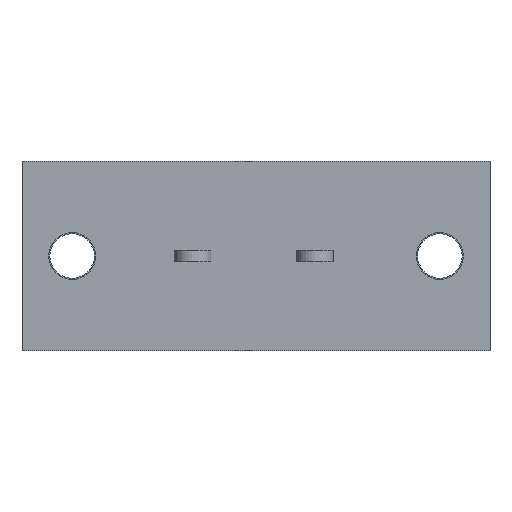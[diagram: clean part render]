
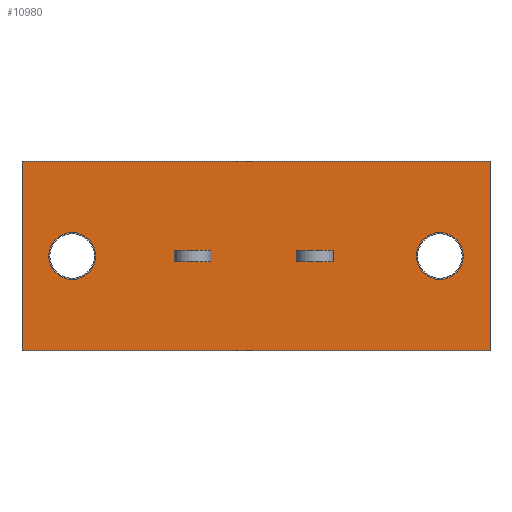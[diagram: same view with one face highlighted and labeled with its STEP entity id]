
A CAD part, front view. The second image highlights one B-rep face of the part: STEP entity #10980.
In plain terms, the highlighted planar face has unit normal (0, -1, 0).
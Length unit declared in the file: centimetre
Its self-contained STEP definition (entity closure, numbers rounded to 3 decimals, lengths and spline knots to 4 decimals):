
#559=CIRCLE('',#18077,0.21);
#595=CIRCLE('',#18293,0.21);
#663=VERTEX_POINT('',#13553);
#664=VERTEX_POINT('',#13554);
#667=VERTEX_POINT('',#13562);
#700=VERTEX_POINT('',#13642);
#1129=VERTEX_POINT('',#15403);
#1130=VERTEX_POINT('',#15404);
#1141=VERTEX_POINT('',#15428);
#1565=VERTEX_POINT('',#17185);
#1566=VERTEX_POINT('',#17186);
#1577=VERTEX_POINT('',#17210);
#1645=VERTEX_POINT('',#17452);
#1646=VERTEX_POINT('',#17453);
#1649=VERTEX_POINT('',#17461);
#1665=VERTEX_POINT('',#17505);
#1751=VECTOR('',#11440,1.);
#1755=VECTOR('',#11445,1.);
#1784=VECTOR('',#11505,1.);
#1792=VECTOR('',#11517,1.);
#2284=VECTOR('',#12254,1.);
#2790=VECTOR('',#13030,1.);
#2854=VECTOR('',#13234,1.);
#2858=VECTOR('',#13239,1.);
#2873=VECTOR('',#13276,1.);
#2881=VECTOR('',#13288,1.);
#2936=VECTOR('',#13401,1.);
#2937=VECTOR('',#13402,1.);
#2974=LINE('',#13552,#1751);
#2978=LINE('',#13561,#1755);
#3007=LINE('',#13641,#1784);
#3015=LINE('',#13657,#1792);
#3507=LINE('',#15402,#2284);
#4013=LINE('',#17184,#2790);
#4077=LINE('',#17451,#2854);
#4081=LINE('',#17460,#2858);
#4096=LINE('',#17504,#2873);
#4104=LINE('',#17520,#2881);
#4159=LINE('',#17658,#2936);
#4160=LINE('',#17659,#2937);
#4197=EDGE_CURVE('',#663,#664,#2974,.T.);
#4201=EDGE_CURVE('',#667,#663,#2978,.T.);
#4241=EDGE_CURVE('',#700,#667,#3007,.T.);
#4250=EDGE_CURVE('',#664,#700,#3015,.T.);
#4881=EDGE_CURVE('',#1129,#1130,#3507,.T.);
#4893=EDGE_CURVE('',#1141,#1141,#559,.T.);
#5530=EDGE_CURVE('',#1565,#1566,#4013,.T.);
#5542=EDGE_CURVE('',#1577,#1577,#595,.T.);
#5643=EDGE_CURVE('',#1645,#1646,#4077,.T.);
#5647=EDGE_CURVE('',#1649,#1645,#4081,.T.);
#5669=EDGE_CURVE('',#1665,#1649,#4096,.T.);
#5678=EDGE_CURVE('',#1646,#1665,#4104,.T.);
#5749=EDGE_CURVE('',#1566,#1129,#4159,.T.);
#5750=EDGE_CURVE('',#1130,#1565,#4160,.T.);
#8849=ORIENTED_EDGE('',*,*,#4201,.T.);
#8850=ORIENTED_EDGE('',*,*,#4197,.T.);
#8851=ORIENTED_EDGE('',*,*,#4250,.T.);
#8852=ORIENTED_EDGE('',*,*,#4241,.T.);
#8853=ORIENTED_EDGE('',*,*,#4893,.T.);
#8854=ORIENTED_EDGE('',*,*,#5542,.T.);
#8855=ORIENTED_EDGE('',*,*,#5647,.T.);
#8856=ORIENTED_EDGE('',*,*,#5643,.T.);
#8857=ORIENTED_EDGE('',*,*,#5678,.T.);
#8858=ORIENTED_EDGE('',*,*,#5669,.T.);
#8859=ORIENTED_EDGE('',*,*,#5749,.T.);
#8860=ORIENTED_EDGE('',*,*,#4881,.T.);
#8861=ORIENTED_EDGE('',*,*,#5750,.T.);
#8862=ORIENTED_EDGE('',*,*,#5530,.T.);
#9698=EDGE_LOOP('',(#8849,#8850,#8851,#8852));
#9699=EDGE_LOOP('',(#8853));
#9700=EDGE_LOOP('',(#8854));
#9701=EDGE_LOOP('',(#8855,#8856,#8857,#8858));
#9702=EDGE_LOOP('',(#8859,#8860,#8861,#8862));
#10370=FACE_BOUND('',#9698,.T.);
#10371=FACE_BOUND('',#9699,.T.);
#10372=FACE_BOUND('',#9700,.T.);
#10373=FACE_BOUND('',#9701,.T.);
#10374=FACE_BOUND('',#9702,.T.);
#10980=ADVANCED_FACE('',(#10370,#10371,#10372,#10373,#10374),#11406,.T.);
#11406=PLANE('',#18426);
#11440=DIRECTION('',(0.,0.,1.));
#11445=DIRECTION('',(-1.,0.,0.));
#11505=DIRECTION('',(0.,0.,-1.));
#11517=DIRECTION('',(1.,0.,0.));
#12254=DIRECTION('',(0.,0.,1.));
#12272=DIRECTION('',(0.,1.,0.));
#12273=DIRECTION('',(0.21,0.,0.));
#13030=DIRECTION('',(0.,0.,-1.));
#13048=DIRECTION('',(0.,1.,0.));
#13049=DIRECTION('',(-0.21,0.,0.));
#13234=DIRECTION('',(0.,0.,1.));
#13239=DIRECTION('',(-1.,0.,0.));
#13276=DIRECTION('',(0.,0.,-1.));
#13288=DIRECTION('',(1.,0.,0.));
#13400=DIRECTION('',(0.,-1.,0.));
#13401=DIRECTION('',(1.,0.,0.));
#13402=DIRECTION('',(-1.,0.,0.));
#13552=CARTESIAN_POINT('',(-0.635,0.,0.));
#13553=CARTESIAN_POINT('',(-0.635,0.,-0.05));
#13554=CARTESIAN_POINT('',(-0.635,0.,0.05));
#13561=CARTESIAN_POINT('',(-0.235,0.,-0.05));
#13562=CARTESIAN_POINT('',(-0.305,0.,-0.05));
#13641=CARTESIAN_POINT('',(-0.305,0.,0.));
#13642=CARTESIAN_POINT('',(-0.305,0.,0.05));
#13657=CARTESIAN_POINT('',(-0.235,0.,0.05));
#15402=CARTESIAN_POINT('',(2.2,0.,0.85));
#15403=CARTESIAN_POINT('',(2.2,0.,-0.85));
#15404=CARTESIAN_POINT('',(2.2,0.,0.85));
#15427=CARTESIAN_POINT('',(1.75,0.,0.));
#15428=CARTESIAN_POINT('',(1.54,0.,0.));
#17184=CARTESIAN_POINT('',(-2.,0.,-0.85));
#17185=CARTESIAN_POINT('',(-2.,0.,0.85));
#17186=CARTESIAN_POINT('',(-2.,0.,-0.85));
#17209=CARTESIAN_POINT('',(-1.55,0.,0.));
#17210=CARTESIAN_POINT('',(-1.34,0.,0.));
#17451=CARTESIAN_POINT('',(0.465,0.,0.));
#17452=CARTESIAN_POINT('',(0.465,0.,-0.05));
#17453=CARTESIAN_POINT('',(0.465,0.,0.05));
#17460=CARTESIAN_POINT('',(0.315,0.,-0.05));
#17461=CARTESIAN_POINT('',(0.795,0.,-0.05));
#17504=CARTESIAN_POINT('',(0.795,0.,0.));
#17505=CARTESIAN_POINT('',(0.795,0.,0.05));
#17520=CARTESIAN_POINT('',(0.315,0.,0.05));
#17657=CARTESIAN_POINT('',(0.,0.,0.));
#17658=CARTESIAN_POINT('',(0.,0.,-0.85));
#17659=CARTESIAN_POINT('',(-1.1,0.,0.85));
#18077=AXIS2_PLACEMENT_3D('',#15427,#12272,#12273);
#18293=AXIS2_PLACEMENT_3D('',#17209,#13048,#13049);
#18426=AXIS2_PLACEMENT_3D('',#17657,#13400,$);
